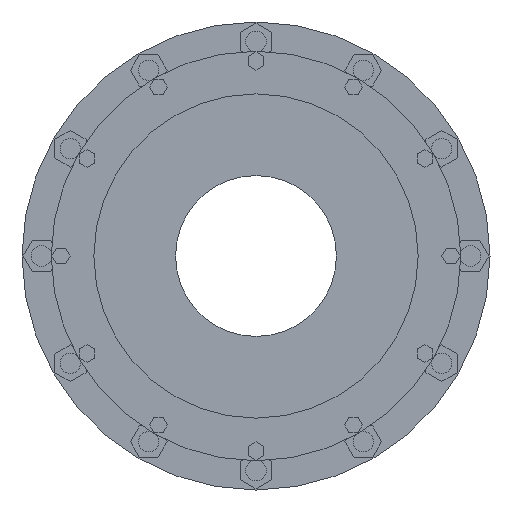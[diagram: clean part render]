
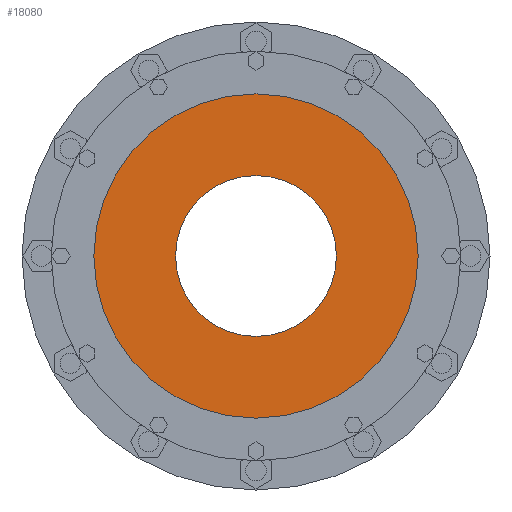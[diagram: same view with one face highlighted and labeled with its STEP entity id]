
A CAD part, left-side view. The second image highlights one B-rep face of the part: STEP entity #18080.
In plain terms, the highlighted planar face has unit normal (-1, 0, 0).
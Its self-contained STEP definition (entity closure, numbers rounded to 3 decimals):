
#17778=CARTESIAN_POINT('',(-872.5,0.,0.));
#17779=DIRECTION('',(1.,0.,0.));
#17780=DIRECTION('',(0.,1.,0.));
#17781=AXIS2_PLACEMENT_3D('',#17778,#17779,#17780);
#17857=CARTESIAN_POINT('',(-872.5,0.,0.));
#17858=DIRECTION('',(-1.,0.,0.));
#17859=DIRECTION('',(0.,1.,0.));
#17860=AXIS2_PLACEMENT_3D('',#17857,#17858,#17859);
#17862=CARTESIAN_POINT('',(-872.5,0.,0.));
#17863=DIRECTION('',(1.,0.,0.));
#17864=DIRECTION('',(0.,1.,0.));
#17865=AXIS2_PLACEMENT_3D('',#17862,#17863,#17864);
#17876=CARTESIAN_POINT('',(-872.5,0.,0.));
#17877=DIRECTION('',(-1.,0.,0.));
#17878=DIRECTION('',(0.,1.,0.));
#17879=AXIS2_PLACEMENT_3D('',#17876,#17877,#17878);
#17885=CARTESIAN_POINT('',(-872.5,165.,0.));
#17886=CARTESIAN_POINT('',(-872.5,-165.,0.));
#17887=VERTEX_POINT('',#17885);
#17888=VERTEX_POINT('',#17886);
#17889=CARTESIAN_POINT('',(-872.5,332.5,0.));
#17890=CARTESIAN_POINT('',(-872.5,-332.5,0.));
#17891=VERTEX_POINT('',#17889);
#17892=VERTEX_POINT('',#17890);
#18066=CARTESIAN_POINT('',(-872.5,0.,0.));
#18067=DIRECTION('',(1.,0.,0.));
#18068=DIRECTION('',(0.,-1.,0.));
#18069=AXIS2_PLACEMENT_3D('',#18066,#18067,#18068);
#18070=PLANE('',#18069);
#18071=ORIENTED_EDGE('',*,*,#18048,.F.);
#18072=ORIENTED_EDGE('',*,*,#18061,.T.);
#18073=EDGE_LOOP('',(#18071,#18072));
#18074=FACE_OUTER_BOUND('',#18073,.F.);
#18075=ORIENTED_EDGE('',*,*,#17926,.F.);
#18077=ORIENTED_EDGE('',*,*,#18076,.T.);
#18078=EDGE_LOOP('',(#18075,#18077));
#18079=FACE_BOUND('',#18078,.F.);
#18080=ADVANCED_FACE('',(#18074,#18079),#18070,.F.);
#17782=CIRCLE('',#17781,165.);
#17861=CIRCLE('',#17860,332.5);
#17866=CIRCLE('',#17865,332.5);
#17880=CIRCLE('',#17879,165.);
#17926=EDGE_CURVE('',#17887,#17888,#17782,.T.);
#18048=EDGE_CURVE('',#17891,#17892,#17861,.T.);
#18061=EDGE_CURVE('',#17891,#17892,#17866,.T.);
#18076=EDGE_CURVE('',#17887,#17888,#17880,.T.);
